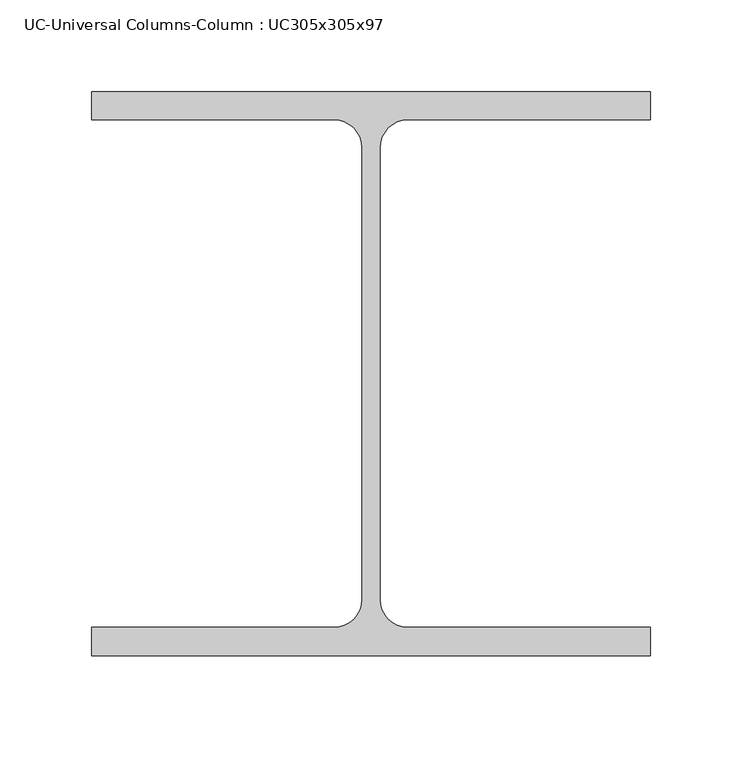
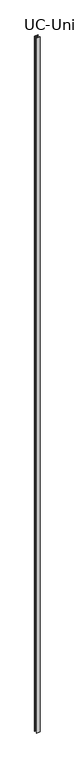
"""IFC4 building model written with IfcOpenShell, lengths in millimetres: column geometry, UC-Universal Columns-Column : UC305x305x97."""

from ifc_helpers import new_model, si_unit, point, frame_2d, origin, origin_with_axes, place, context, project, spatial, polyline, circle_curve, trimmed, segment, composite_curve, outline, extrude, source, transform, mapped, element, save


def uc_universal_columns_column_uc305x305x97_24c5e44f(model_context):
    return source(origin(), model_context, "Body", "SweptSolid", [
        extrude(outline(composite_curve([segment(polyline([(152.65, 153.95), (152.65, 138.55), (20.15, 138.55)]), True, "CONTINUOUS"), segment(trimmed(circle_curve(frame_2d((20.15, 123.35)), 15.2), [point((20.15, 138.55))], [point((4.95, 123.35))], True, "CARTESIAN"), True, "CONTINUOUS"), segment(polyline([(4.95, 123.35), (4.95, -123.35)]), True, "CONTINUOUS"), segment(trimmed(circle_curve(frame_2d((20.15, -123.35)), 15.2), [point((4.95, -123.35))], [point((20.15, -138.55))], True, "CARTESIAN"), True, "CONTINUOUS"), segment(polyline([(20.15, -138.55), (152.65, -138.55), (152.65, -153.95), (-152.65, -153.95), (-152.65, -138.55), (-20.15, -138.55)]), True, "CONTINUOUS"), segment(trimmed(circle_curve(frame_2d((-20.15, -123.35)), 15.2), [point((-20.15, -138.55))], [point((-4.95, -123.35))], True, "CARTESIAN"), True, "CONTINUOUS"), segment(polyline([(-4.95, -123.35), (-4.95, 123.35)]), True, "CONTINUOUS"), segment(trimmed(circle_curve(frame_2d((-20.15, 123.35)), 15.2), [point((-4.95, 123.35))], [point((-20.15, 138.55))], True, "CARTESIAN"), True, "CONTINUOUS"), segment(polyline([(-20.15, 138.55), (-152.65, 138.55), (-152.65, 153.95), (152.65, 153.95)]), True, "CONTINUOUS")], self_intersect=False)), origin_with_axes(), (0.0, 0.0, 1.0), 64922.6),
    ])


if __name__ == "__main__":
    model = new_model("IFC4")
    model_context = context("Model", 3, world=origin())
    ifc_project = project(units=[si_unit("LENGTHUNIT", "METRE", prefix="MILLI")], contexts=[model_context])
    site = spatial("IfcSite", under=ifc_project)
    building = spatial("IfcBuilding", under=site)
    placement = place(None, origin())
    uc_universal_columns_column_uc305x305x97_shape = uc_universal_columns_column_uc305x305x97_24c5e44f(model_context)
    element("IfcColumn", 1, ObjectType="UC-Universal Columns-Column : UC305x305x97", at=placement, inside=building, context=model_context, shape_type="MappedRepresentation", body=[
        mapped(uc_universal_columns_column_uc305x305x97_shape, transform((0.0, 0.0, 0.0), x_axis=(1.0, 0.0, 0.0), y_axis=(0.0, 1.0, 0.0), z_axis=(0.0, 0.0, 1.0))),
    ])
    save(model, "model.ifc")
